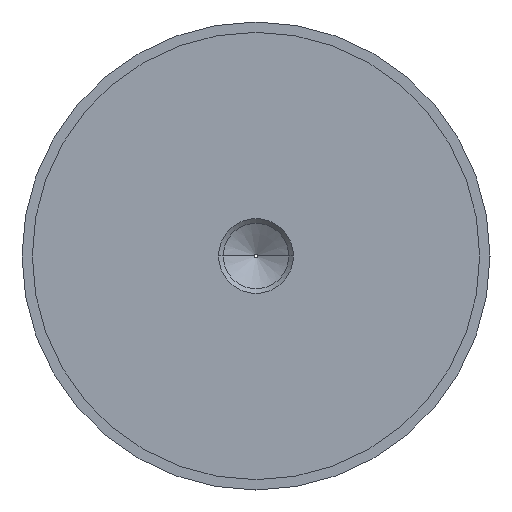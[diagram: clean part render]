
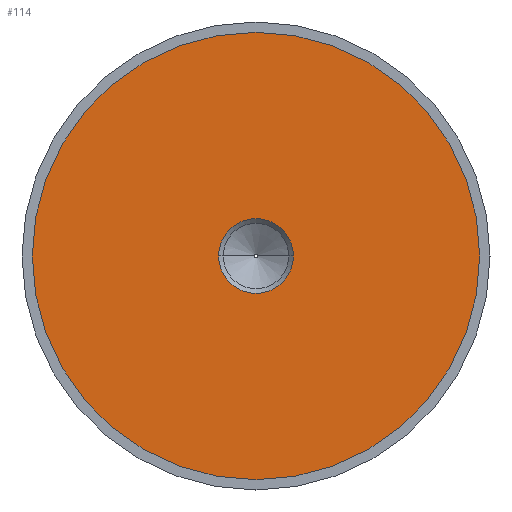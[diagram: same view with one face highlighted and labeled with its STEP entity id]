
A CAD part, left-side view. The second image highlights one B-rep face of the part: STEP entity #114.
In plain terms, the highlighted planar face has unit normal (-1, 0, 0).
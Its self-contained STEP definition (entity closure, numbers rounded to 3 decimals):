
#14 = DIRECTION ( 'NONE',  ( 1., 0., 0. ) ) ;
#22 = CARTESIAN_POINT ( 'NONE',  ( -19.99, 47.8, 0. ) ) ;
#23 = CARTESIAN_POINT ( 'NONE',  ( -19.99, 0., -47.8 ) ) ;
#46 = DIRECTION ( 'NONE',  ( 0., 0., 1. ) ) ;
#63 = EDGE_LOOP ( 'NONE', ( #324, #327 ) ) ;
#65 = VERTEX_POINT ( 'NONE', #283 ) ;
#83 = DIRECTION ( 'NONE',  ( -1., 0., 0. ) ) ;
#114 = ADVANCED_FACE ( 'NONE', ( #419, #583 ), #638, .F. ) ;
#149 = DIRECTION ( 'NONE',  ( 1., 0., 0. ) ) ;
#165 = CIRCLE ( 'NONE', #491, 47.8 ) ;
#166 = AXIS2_PLACEMENT_3D ( 'NONE', #22, #14, #592 ) ;
#172 = DIRECTION ( 'NONE',  ( 1., 0., 0. ) ) ;
#181 = ORIENTED_EDGE ( 'NONE', *, *, #646, .T. ) ;
#200 = AXIS2_PLACEMENT_3D ( 'NONE', #503, #172, #394 ) ;
#211 = EDGE_LOOP ( 'NONE', ( #181, #292 ) ) ;
#223 = EDGE_CURVE ( 'NONE', #65, #347, #531, .T. ) ;
#250 = DIRECTION ( 'NONE',  ( -1., 0., 0. ) ) ;
#276 = EDGE_CURVE ( 'NONE', #706, #377, #631, .T. ) ;
#283 = CARTESIAN_POINT ( 'NONE',  ( -19.99, 0., 47.8 ) ) ;
#292 = ORIENTED_EDGE ( 'NONE', *, *, #276, .T. ) ;
#314 = DIRECTION ( 'NONE',  ( 0., 0., 1. ) ) ;
#324 = ORIENTED_EDGE ( 'NONE', *, *, #223, .T. ) ;
#327 = ORIENTED_EDGE ( 'NONE', *, *, #567, .T. ) ;
#328 = CARTESIAN_POINT ( 'NONE',  ( -19.99, 7.99, 0. ) ) ;
#347 = VERTEX_POINT ( 'NONE', #23 ) ;
#356 = CIRCLE ( 'NONE', #445, 7.99 ) ;
#377 = VERTEX_POINT ( 'NONE', #585 ) ;
#378 = DIRECTION ( 'NONE',  ( 0., 0., -1. ) ) ;
#394 = DIRECTION ( 'NONE',  ( 0., 0., -1. ) ) ;
#419 = FACE_BOUND ( 'NONE', #211, .T. ) ;
#445 = AXIS2_PLACEMENT_3D ( 'NONE', #550, #149, #378 ) ;
#491 = AXIS2_PLACEMENT_3D ( 'NONE', #515, #250, #46 ) ;
#503 = CARTESIAN_POINT ( 'NONE',  ( -19.99, 0., 0. ) ) ;
#515 = CARTESIAN_POINT ( 'NONE',  ( -19.99, 0., 0. ) ) ;
#531 = CIRCLE ( 'NONE', #679, 47.8 ) ;
#550 = CARTESIAN_POINT ( 'NONE',  ( -19.99, 0., 0. ) ) ;
#567 = EDGE_CURVE ( 'NONE', #347, #65, #165, .T. ) ;
#583 = FACE_OUTER_BOUND ( 'NONE', #63, .T. ) ;
#585 = CARTESIAN_POINT ( 'NONE',  ( -19.99, -7.99, 0. ) ) ;
#592 = DIRECTION ( 'NONE',  ( 0., 0., -1. ) ) ;
#631 = CIRCLE ( 'NONE', #200, 7.99 ) ;
#638 = PLANE ( 'NONE',  #166 ) ;
#646 = EDGE_CURVE ( 'NONE', #377, #706, #356, .T. ) ;
#647 = CARTESIAN_POINT ( 'NONE',  ( -19.99, 0., 0. ) ) ;
#679 = AXIS2_PLACEMENT_3D ( 'NONE', #647, #83, #314 ) ;
#706 = VERTEX_POINT ( 'NONE', #328 ) ;
